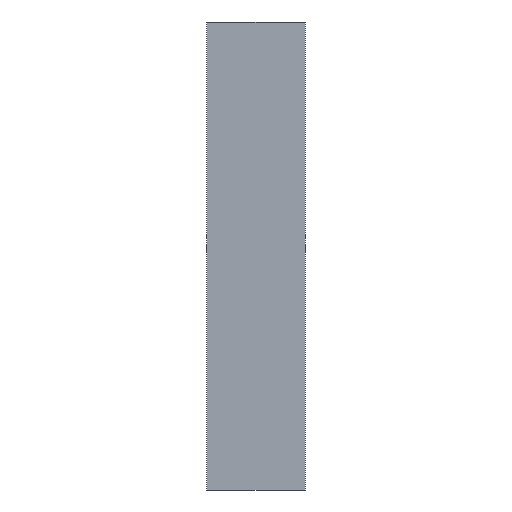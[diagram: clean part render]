
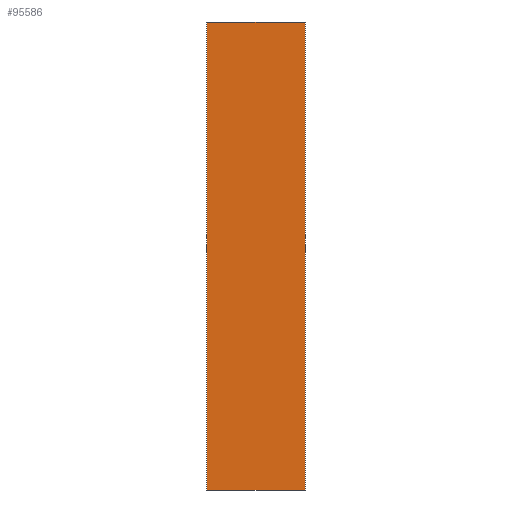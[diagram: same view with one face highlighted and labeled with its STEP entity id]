
A CAD part, front view. The second image highlights one B-rep face of the part: STEP entity #95586.
In plain terms, the highlighted planar face has unit normal (0, -1, 0).
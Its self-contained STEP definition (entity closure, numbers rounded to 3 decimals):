
#8844=DIRECTION('',(1.,0.,0.));
#8845=VECTOR('',#8844,80.);
#8846=CARTESIAN_POINT('',(-40.,104.5,70.));
#8847=LINE('',#8846,#8845);
#8848=DIRECTION('',(0.,0.,-1.));
#8849=VECTOR('',#8848,380.);
#8850=CARTESIAN_POINT('',(40.,104.5,70.));
#8851=LINE('',#8850,#8849);
#8852=DIRECTION('',(-1.,0.,0.));
#8853=VECTOR('',#8852,80.);
#8854=CARTESIAN_POINT('',(40.,104.5,-310.));
#8855=LINE('',#8854,#8853);
#8856=DIRECTION('',(0.,0.,1.));
#8857=VECTOR('',#8856,380.);
#8858=CARTESIAN_POINT('',(-40.,104.5,-310.));
#8859=LINE('',#8858,#8857);
#85061=CARTESIAN_POINT('',(-40.,104.5,70.));
#85062=CARTESIAN_POINT('',(40.,104.5,70.));
#85063=VERTEX_POINT('',#85061);
#85064=VERTEX_POINT('',#85062);
#85065=CARTESIAN_POINT('',(40.,104.5,-310.));
#85066=VERTEX_POINT('',#85065);
#85067=CARTESIAN_POINT('',(-40.,104.5,-310.));
#85068=VERTEX_POINT('',#85067);
#95572=CARTESIAN_POINT('',(0.,104.5,0.));
#95573=DIRECTION('',(0.,-1.,0.));
#95574=DIRECTION('',(0.,0.,-1.));
#95575=AXIS2_PLACEMENT_3D('',#95572,#95573,#95574);
#95576=PLANE('',#95575);
#95577=ORIENTED_EDGE('',*,*,#95562,.T.);
#95579=ORIENTED_EDGE('',*,*,#95578,.T.);
#95581=ORIENTED_EDGE('',*,*,#95580,.T.);
#95583=ORIENTED_EDGE('',*,*,#95582,.T.);
#95584=EDGE_LOOP('',(#95577,#95579,#95581,#95583));
#95585=FACE_OUTER_BOUND('',#95584,.F.);
#95586=ADVANCED_FACE('',(#95585),#95576,.T.);
#95562=EDGE_CURVE('',#85063,#85064,#8847,.T.);
#95578=EDGE_CURVE('',#85064,#85066,#8851,.T.);
#95580=EDGE_CURVE('',#85066,#85068,#8855,.T.);
#95582=EDGE_CURVE('',#85068,#85063,#8859,.T.);
